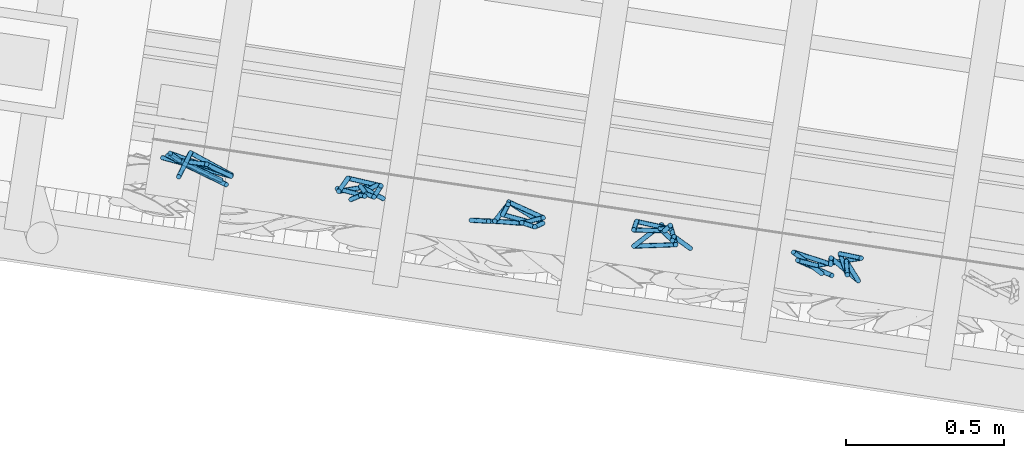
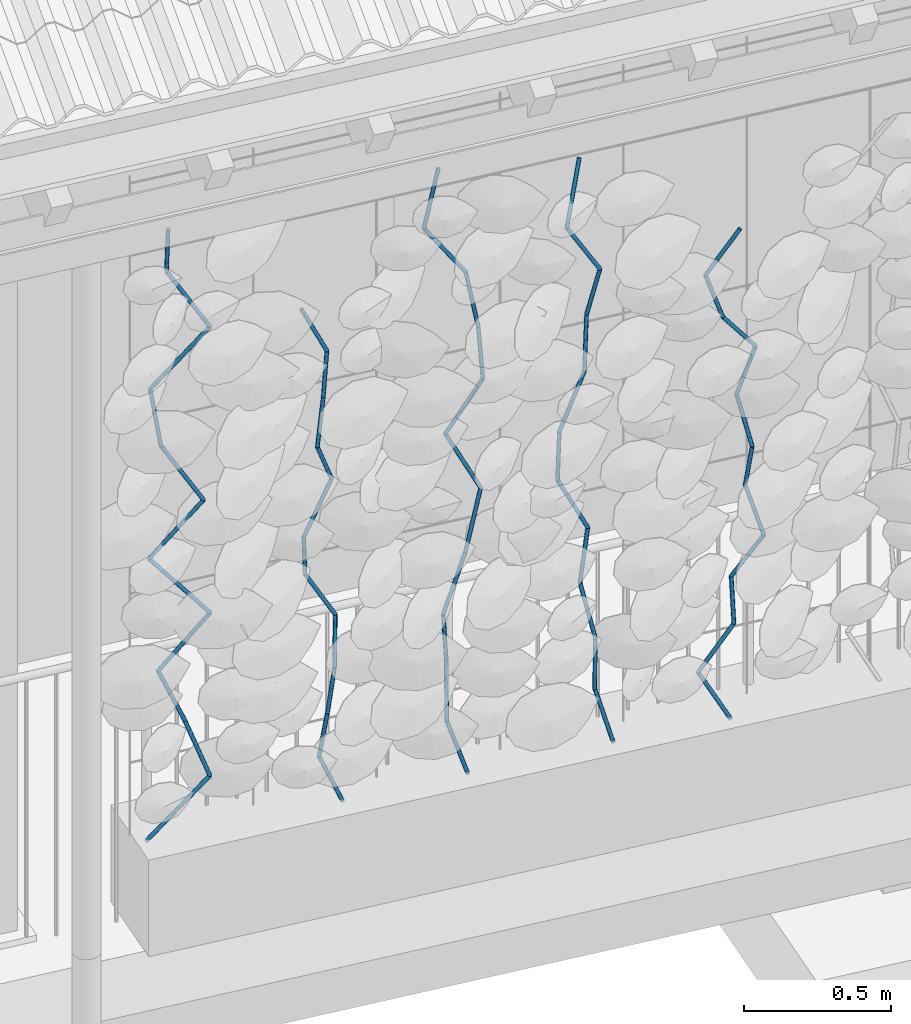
# One storey, part 106 of 131: 55 members, 1 element without a shape of its own.
"""IFC4 building model written with IfcOpenShell, lengths in metres."""

from ifc_helpers import new_model, si_unit, direction, frame, origin_with_axes, place, context, subcontext, project, spatial, circle, extrude, material, material_profile, profile_set, profile_usage, type_object, element, aggregate, save


model = new_model("IFC4")

# Units and contexts
model_context = context("Model", 3, precision=1e-05, world=origin_with_axes(), true_north=direction((0.0, 1.0)))
body_context = subcontext(model_context, "Body", "Model", "MODEL_VIEW")
ifc_project = project(units=[si_unit("AREAUNIT", "SQUARE_METRE"), si_unit("VOLUMEUNIT", "CUBIC_METRE"), si_unit("LENGTHUNIT", "METRE")], contexts=[model_context])

# Site, building, storey
site_placement = place(None, origin_with_axes())
site = spatial("IfcSite", under=ifc_project, at=site_placement, Name="Lares · Rua das Mercês · artigo 4771")
building_placement = place(site_placement, frame((15.0, 9.7, 14.65), z_axis=(0.0, 0.0, 1.0), x_axis=(0.989015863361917, -0.147809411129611, 0.0)))
building = spatial("IfcBuilding", under=site, at=building_placement, Name="Casa Sobreposta")
storey_placement = place(building_placement, origin_with_axes())
storey = spatial("IfcBuildingStorey", under=building, at=storey_placement, Name="00 · Habitação e estacionamento", Elevation=14.65)

# Assembly, members
assembly_placement = place(storey_placement, origin_with_axes())
assembly = element("IfcElementAssembly", 1, at=assembly_placement, inside=storey, Name="Fachada sul e pátio · estrutura e trepadeiras", ObjectType="LIVING_SHADE_TRELLIS", PredefinedType="USERDEFINED")
ifc_material = material(Name="Ramos de trepadeiras", Category="wood")
ifc_material_profile = material_profile(ifc_material, circle(Radius=0.0075))
ifc_profile_set = profile_set([ifc_material_profile], Name="D0.015")
ifc_profile_usage_1 = profile_usage(ifc_profile_set)
member_type = type_object("IfcMemberType", Name="D0.015 / vine_wood", PredefinedType="NOTDEFINED", material=ifc_profile_set)
member_1_placement = place(assembly_placement, frame((0.487502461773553, -1.66396382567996, 0.35), z_axis=(0.69058492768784, -0.0801863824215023, 0.718792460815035), x_axis=(-0.115338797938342, -0.993326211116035, 0.0)))
member_1 = element("IfcMember", 2, at=member_1_placement, type_object=member_type, material=ifc_profile_usage_1, Name="Trepadeiras · ramo", context=body_context, shape_type="SweptSolid", body=[
    extrude(circle(Radius=0.0075), origin_with_axes(), (0.0, 0.0, 1.0), 0.32293185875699),
])
ifc_profile_usage_2 = profile_usage(ifc_profile_set)
member_2_placement = place(assembly_placement, frame((0.710514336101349, -1.68985856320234, 0.582120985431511), z_axis=(-0.328747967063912, 0.104310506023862, 0.938639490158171), x_axis=(0.30243708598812, 0.953169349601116, 0.0)))
member_2 = element("IfcMember", 3, at=member_2_placement, type_object=member_type, material=ifc_profile_usage_2, Name="Trepadeiras · ramo", context=body_context, shape_type="SweptSolid", body=[
    extrude(circle(Radius=0.0075), origin_with_axes(), (0.0, 0.0, 1.0), 0.247295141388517),
])
ifc_profile_usage_3 = profile_usage(ifc_profile_set)
member_3_placement = place(assembly_placement, frame((0.629216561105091, -1.66406308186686, 0.814241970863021), z_axis=(-0.389191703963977, -0.00603293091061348, 0.921137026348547), x_axis=(-0.0154993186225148, 0.999879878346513, 0.0)))
member_3 = element("IfcMember", 4, at=member_3_placement, type_object=member_type, material=ifc_profile_usage_3, Name="Trepadeiras · ramo", context=body_context, shape_type="SweptSolid", body=[
    extrude(circle(Radius=0.0075), origin_with_axes(), (0.0, 0.0, 1.0), 0.251993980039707),
])
ifc_profile_usage_4 = profile_usage(ifc_profile_set)
member_4_placement = place(assembly_placement, frame((0.531142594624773, -1.66558334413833, 1.04636295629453), z_axis=(0.579293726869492, -0.182032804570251, 0.794533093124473), x_axis=(-0.299780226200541, -0.954008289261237, 0.0)))
member_4 = element("IfcMember", 5, at=member_4_placement, type_object=member_type, material=ifc_profile_usage_4, Name="Trepadeiras · ramo", context=body_context, shape_type="SweptSolid", body=[
    extrude(circle(Radius=0.0075), origin_with_axes(), (0.0, 0.0, 1.0), 0.292147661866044),
])
ifc_profile_usage_5 = profile_usage(ifc_profile_set)
member_5_placement = place(assembly_placement, frame((0.700381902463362, -1.71876380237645, 1.27848394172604), z_axis=(-0.634729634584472, 0.207136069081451, 0.744454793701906), x_axis=(0.310235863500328, 0.950659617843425, 3.09474478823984e-17)))
member_5 = element("IfcMember", 6, at=member_5_placement, type_object=member_type, material=ifc_profile_usage_5, Name="Trepadeiras · ramo", context=body_context, shape_type="SweptSolid", body=[
    extrude(circle(Radius=0.0075), origin_with_axes(), (0.0, 0.0, 1.0), 0.311799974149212),
])
ifc_profile_usage_6 = profile_usage(ifc_profile_set)
member_6_placement = place(assembly_placement, frame((0.502473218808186, -1.65417878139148, 1.51060492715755), z_axis=(0.599844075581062, -0.17685079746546, 0.78032741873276), x_axis=(-0.28279332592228, -0.959180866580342, 0.0)))
member_6 = element("IfcMember", 7, at=member_6_placement, type_object=member_type, material=ifc_profile_usage_6, Name="Trepadeiras · ramo", context=body_context, shape_type="SweptSolid", body=[
    extrude(circle(Radius=0.0075), origin_with_axes(), (0.0, 0.0, 1.0), 0.297466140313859),
])
ifc_profile_usage_7 = profile_usage(ifc_profile_set)
member_7_placement = place(assembly_placement, frame((0.680906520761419, -1.70678590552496, 1.74272591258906), z_axis=(-0.507589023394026, 0.156348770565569, 0.847294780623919), x_axis=(0.294373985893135, 0.95569030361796, 0.0)))
member_7 = element("IfcMember", 8, at=member_7_placement, type_object=member_type, material=ifc_profile_usage_7, Name="Trepadeiras · ramo", context=body_context, shape_type="SweptSolid", body=[
    extrude(circle(Radius=0.0075), origin_with_axes(), (0.0, 0.0, 1.0), 0.27395540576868),
])
ifc_profile_usage_8 = profile_usage(ifc_profile_set)
member_8_placement = place(assembly_placement, frame((0.54184976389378, -1.66395331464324, 1.97484689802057), z_axis=(-0.136484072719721, 0.0718011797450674, 0.988036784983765), x_axis=(0.465581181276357, 0.885005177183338, 0.0)))
member_8 = element("IfcMember", 9, at=member_8_placement, type_object=member_type, material=ifc_profile_usage_8, Name="Trepadeiras · ramo", context=body_context, shape_type="SweptSolid", body=[
    extrude(circle(Radius=0.0075), origin_with_axes(), (0.0, 0.0, 1.0), 0.23493152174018),
])
ifc_profile_usage_9 = profile_usage(ifc_profile_set)
member_9_placement = place(assembly_placement, frame((0.509785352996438, -1.64708495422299, 2.20696788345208), z_axis=(0.65162920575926, -0.125884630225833, 0.74801900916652), x_axis=(-0.189677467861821, -0.981846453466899, 0.0)))
member_9 = element("IfcMember", 10, at=member_9_placement, type_object=member_type, material=ifc_profile_usage_9, Name="Trepadeiras · ramo", context=body_context, shape_type="SweptSolid", body=[
    extrude(circle(Radius=0.0075), origin_with_axes(), (0.0, 0.0, 1.0), 0.310314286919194),
])
ifc_profile_usage_10 = profile_usage(ifc_profile_set)
member_10_placement = place(assembly_placement, frame((0.711995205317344, -1.6861487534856, 2.4390888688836), z_axis=(-0.503862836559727, 0.183056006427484, 0.844163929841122), x_axis=(0.341468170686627, 0.93989333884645, 0.0)))
member_10 = element("IfcMember", 11, at=member_10_placement, type_object=member_type, material=ifc_profile_usage_10, Name="Trepadeiras · ramo", context=body_context, shape_type="SweptSolid", body=[
    extrude(circle(Radius=0.0075), origin_with_axes(), (0.0, 0.0, 1.0), 0.274971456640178),
])
ifc_profile_usage_11 = profile_usage(ifc_profile_set)
member_11_placement = place(assembly_placement, frame((0.573447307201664, -1.6358135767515, 2.67120985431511), z_axis=(-0.104470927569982, -0.32645838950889, 0.939420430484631), x_axis=(-0.952420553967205, 0.304786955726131, 0.0)))
member_11 = element("IfcMember", 12, at=member_11_placement, type_object=member_type, material=ifc_profile_usage_11, Name="Trepadeiras · ramo", context=body_context, shape_type="SweptSolid", body=[
    extrude(circle(Radius=0.0075), origin_with_axes(), (0.0, 0.0, 1.0), 0.247089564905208),
])
ifc_profile_usage_12 = profile_usage(ifc_profile_set)
member_12_placement = place(assembly_placement, frame((1.19577776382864, -1.68878370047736, 0.35), z_axis=(-0.370010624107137, 0.134204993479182, 0.919282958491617), x_axis=(0.340970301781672, 0.940074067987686, 0.0)))
member_12 = element("IfcMember", 13, at=member_12_placement, type_object=member_type, material=ifc_profile_usage_12, Name="Trepadeiras · ramo", context=body_context, shape_type="SweptSolid", body=[
    extrude(circle(Radius=0.0075), origin_with_axes(), (0.0, 0.0, 1.0), 0.204791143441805),
])
ifc_profile_usage_13 = profile_usage(ifc_profile_set)
member_13_placement = place(assembly_placement, frame((1.12000286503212, -1.66129970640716, 0.538261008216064), z_axis=(0.114974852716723, -0.113400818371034, 0.98687437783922), x_axis=(-0.702216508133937, -0.71196346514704, 0.0)))
member_13 = element("IfcMember", 14, at=member_13_placement, type_object=member_type, material=ifc_profile_usage_13, Name="Trepadeiras · ramo", context=body_context, shape_type="SweptSolid", body=[
    extrude(circle(Radius=0.0075), origin_with_axes(), (0.0, 0.0, 1.0), 0.190764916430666),
])
ifc_profile_usage_14 = profile_usage(ifc_profile_set)
member_14_placement = place(assembly_placement, frame((1.14193603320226, -1.68293260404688, 0.726522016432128), z_axis=(0.129485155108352, -0.0261637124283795, 0.991236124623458), x_axis=(-0.198056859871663, -0.98019053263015, 0.0)))
member_14 = element("IfcMember", 15, at=member_14_placement, type_object=member_type, material=ifc_profile_usage_14, Name="Trepadeiras · ramo", context=body_context, shape_type="SweptSolid", body=[
    extrude(circle(Radius=0.0075), origin_with_axes(), (0.0, 0.0, 1.0), 0.189925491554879),
])
ifc_profile_usage_15 = profile_usage(ifc_profile_set)
member_15_placement = place(assembly_placement, frame((1.16652856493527, -1.68790175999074, 0.914783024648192), z_axis=(0.0860637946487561, 0.196311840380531, 0.976757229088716), x_axis=(0.915853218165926, -0.401513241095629, 0.0)))
member_15 = element("IfcMember", 16, at=member_15_placement, type_object=member_type, material=ifc_profile_usage_15, Name="Trepadeiras · ramo", context=body_context, shape_type="SweptSolid", body=[
    extrude(circle(Radius=0.0075), origin_with_axes(), (0.0, 0.0, 1.0), 0.192740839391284),
])
ifc_profile_usage_16 = profile_usage(ifc_profile_set)
member_16_placement = place(assembly_placement, frame((1.18311657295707, -1.65006445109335, 1.10304403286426), z_axis=(-0.492196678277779, 0.0389354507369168, 0.86961282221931), x_axis=(0.07885911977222, 0.996885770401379, 0.0)))
member_16 = element("IfcMember", 17, at=member_16_placement, type_object=member_type, material=ifc_profile_usage_16, Name="Trepadeiras · ramo", context=body_context, shape_type="SweptSolid", body=[
    extrude(circle(Radius=0.0075), origin_with_axes(), (0.0, 0.0, 1.0), 0.216488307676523),
])
ifc_profile_usage_17 = profile_usage(ifc_profile_set)
member_17_placement = place(assembly_placement, frame((1.07656174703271, -1.64163538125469, 1.29130504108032), z_axis=(-0.115924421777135, -0.23083538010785, 0.966062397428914), x_axis=(-0.893641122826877, 0.448782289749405, 0.0)))
member_17 = element("IfcMember", 18, at=member_17_placement, type_object=member_type, material=ifc_profile_usage_17, Name="Trepadeiras · ramo", context=body_context, shape_type="SweptSolid", body=[
    extrude(circle(Radius=0.0075), origin_with_axes(), (0.0, 0.0, 1.0), 0.194874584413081),
])
ifc_profile_usage_18 = profile_usage(ifc_profile_set)
member_18_placement = place(assembly_placement, frame((1.05397102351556, -1.68661933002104, 1.47956604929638), z_axis=(0.518346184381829, 0.165755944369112, 0.838953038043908), x_axis=(0.304584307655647, -0.952485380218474, 0.0)))
member_18 = element("IfcMember", 19, at=member_18_placement, type_object=member_type, material=ifc_profile_usage_18, Name="Trepadeiras · ramo", context=body_context, shape_type="SweptSolid", body=[
    extrude(circle(Radius=0.0075), origin_with_axes(), (0.0, 0.0, 1.0), 0.224399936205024),
])
ifc_profile_usage_19 = profile_usage(ifc_profile_set)
member_19_placement = place(assembly_placement, frame((1.17028787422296, -1.64942370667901, 1.66782705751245), z_axis=(-0.353351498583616, -0.271395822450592, 0.895258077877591), x_axis=(-0.609128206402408, 0.793071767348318, 0.0)))
member_19 = element("IfcMember", 20, at=member_19_placement, type_object=member_type, material=ifc_profile_usage_19, Name="Trepadeiras · ramo", context=body_context, shape_type="SweptSolid", body=[
    extrude(circle(Radius=0.0075), origin_with_axes(), (0.0, 0.0, 1.0), 0.210286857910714),
])
ifc_profile_usage_20 = profile_usage(ifc_profile_set)
member_20_placement = place(assembly_placement, frame((1.09598269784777, -1.70649468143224, 1.85608806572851), z_axis=(0.148789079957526, 0.088983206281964, 0.984857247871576), x_axis=(0.513264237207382, -0.858230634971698, 0.0)))
member_20 = element("IfcMember", 21, at=member_20_placement, type_object=member_type, material=ifc_profile_usage_20, Name="Trepadeiras · ramo", context=body_context, shape_type="SweptSolid", body=[
    extrude(circle(Radius=0.0075), origin_with_axes(), (0.0, 0.0, 1.0), 0.191155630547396),
])
ifc_profile_usage_21 = profile_usage(ifc_profile_set)
member_21_placement = place(assembly_placement, frame((1.12442456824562, -1.68948504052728, 2.04434907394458), z_axis=(0.0685665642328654, -0.00028264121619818, 0.99764650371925), x_axis=(-0.00412210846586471, -0.999991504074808, 0.0)))
member_21 = element("IfcMember", 22, at=member_21_placement, type_object=member_type, material=ifc_profile_usage_21, Name="Trepadeiras · ramo", context=body_context, shape_type="SweptSolid", body=[
    extrude(circle(Radius=0.0075), origin_with_axes(), (0.0, 0.0, 1.0), 0.188705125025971),
])
ifc_profile_usage_22 = profile_usage(ifc_profile_set)
member_22_placement = place(assembly_placement, frame((1.13736343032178, -1.68953837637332, 2.23261008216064), z_axis=(-0.427784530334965, 0.0507941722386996, 0.902452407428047), x_axis=(0.117909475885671, 0.993024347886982, 0.0)))
member_22 = element("IfcMember", 23, at=member_22_placement, type_object=member_type, material=ifc_profile_usage_22, Name="Trepadeiras · ramo", context=body_context, shape_type="SweptSolid", body=[
    extrude(circle(Radius=0.0075), origin_with_axes(), (0.0, 0.0, 1.0), 0.208610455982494),
])
ifc_profile_usage_23 = profile_usage(ifc_profile_set)
member_23_placement = place(assembly_placement, frame((1.65069620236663, -1.69213332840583, 0.35), z_axis=(-0.302355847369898, 0.0374710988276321, 0.952458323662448), x_axis=(0.122989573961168, 0.992407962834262, 0.0)))
member_23 = element("IfcMember", 24, at=member_23_placement, type_object=member_type, material=ifc_profile_usage_23, Name="Trepadeiras · ramo", context=body_context, shape_type="SweptSolid", body=[
    extrude(circle(Radius=0.0075), origin_with_axes(), (0.0, 0.0, 1.0), 0.243378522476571),
])
ifc_profile_usage_24 = profile_usage(ifc_profile_set)
member_24_placement = place(assembly_placement, frame((1.57710928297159, -1.68301366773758, 0.581807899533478), z_axis=(0.0489488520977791, 0.146411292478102, 0.988012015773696), x_axis=(0.948400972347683, -0.317073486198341, 0.0)))
member_24 = element("IfcMember", 25, at=member_24_placement, type_object=member_type, material=ifc_profile_usage_24, Name="Trepadeiras · ramo", context=body_context, shape_type="SweptSolid", body=[
    extrude(circle(Radius=0.0075), origin_with_axes(), (0.0, 0.0, 1.0), 0.234620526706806),
])
ifc_profile_usage_25 = profile_usage(ifc_profile_set)
member_25_placement = place(assembly_placement, frame((1.58859368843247, -1.64866257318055, 0.813615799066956), z_axis=(-0.139443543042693, -0.242815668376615, 0.959997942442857), x_axis=(-0.867176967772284, 0.498000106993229, 0.0)))
member_25 = element("IfcMember", 26, at=member_25_placement, type_object=member_type, material=ifc_profile_usage_25, Name="Trepadeiras · ramo", context=body_context, shape_type="SweptSolid", body=[
    extrude(circle(Radius=0.0075), origin_with_axes(), (0.0, 0.0, 1.0), 0.2414670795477),
])
ifc_profile_usage_26 = profile_usage(ifc_profile_set)
member_26_placement = place(assembly_placement, frame((1.55492266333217, -1.70729456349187, 1.04542369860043), z_axis=(0.336633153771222, 0.0229710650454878, 0.941355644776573), x_axis=(0.0680793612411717, -0.997679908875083, 0.0)))
member_26 = element("IfcMember", 27, at=member_26_placement, type_object=member_type, material=ifc_profile_usage_26, Name="Trepadeiras · ramo", context=body_context, shape_type="SweptSolid", body=[
    extrude(circle(Radius=0.0075), origin_with_axes(), (0.0, 0.0, 1.0), 0.24624901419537),
])
ifc_profile_usage_27 = profile_usage(ifc_profile_set)
member_27_placement = place(assembly_placement, frame((1.63781824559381, -1.7016379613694, 1.27723159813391), z_axis=(0.274649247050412, 0.113486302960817, 0.954823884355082), x_axis=(0.381887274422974, -0.924208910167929, -1.11474430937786e-17)))
member_27 = element("IfcMember", 28, at=member_27_placement, type_object=member_type, material=ifc_profile_usage_27, Name="Trepadeiras · ramo", context=body_context, shape_type="SweptSolid", body=[
    extrude(circle(Radius=0.0075), origin_with_axes(), (0.0, 0.0, 1.0), 0.242775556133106),
])
ifc_profile_usage_28 = profile_usage(ifc_profile_set)
member_28_placement = place(assembly_placement, frame((1.70449636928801, -1.6740862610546, 1.50903949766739), z_axis=(-0.442828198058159, 0.127544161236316, 0.887488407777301), x_axis=(0.27677050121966, 0.960936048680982, -1.33632518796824e-17)))
member_28 = element("IfcMember", 29, at=member_28_placement, type_object=member_type, material=ifc_profile_usage_28, Name="Trepadeiras · ramo", context=body_context, shape_type="SweptSolid", body=[
    extrude(circle(Radius=0.0075), origin_with_axes(), (0.0, 0.0, 1.0), 0.261195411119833),
])
ifc_profile_usage_29 = profile_usage(ifc_profile_set)
member_29_placement = place(assembly_placement, frame((1.58883167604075, -1.64077231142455, 1.74084739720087), z_axis=(0.441156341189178, -0.192631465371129, 0.876512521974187), x_axis=(-0.400165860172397, -0.916442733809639, 0.0)))
member_29 = element("IfcMember", 30, at=member_29_placement, type_object=member_type, material=ifc_profile_usage_29, Name="Trepadeiras · ramo", context=body_context, shape_type="SweptSolid", body=[
    extrude(circle(Radius=0.0075), origin_with_axes(), (0.0, 0.0, 1.0), 0.264466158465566),
])
ifc_profile_usage_30 = profile_usage(ifc_profile_set)
member_30_placement = place(assembly_placement, frame((1.70550259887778, -1.69171681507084, 1.97265529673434), z_axis=(-0.0976262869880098, -0.062175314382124, 0.993279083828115), x_axis=(-0.537179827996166, 0.843467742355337, 0.0)))
member_30 = element("IfcMember", 31, at=member_30_placement, type_object=member_type, material=ifc_profile_usage_30, Name="Trepadeiras · ramo", context=body_context, shape_type="SweptSolid", body=[
    extrude(circle(Radius=0.0075), origin_with_axes(), (0.0, 0.0, 1.0), 0.233376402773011),
])
ifc_profile_usage_31 = profile_usage(ifc_profile_set)
member_31_placement = place(assembly_placement, frame((1.68271892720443, -1.70622706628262, 2.20446319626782), z_axis=(-0.182010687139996, 0.0299207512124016, 0.982841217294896), x_axis=(0.162212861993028, 0.986755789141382, 0.0)))
member_31 = element("IfcMember", 32, at=member_31_placement, type_object=member_type, material=ifc_profile_usage_31, Name="Trepadeiras · ramo", context=body_context, shape_type="SweptSolid", body=[
    extrude(circle(Radius=0.0075), origin_with_axes(), (0.0, 0.0, 1.0), 0.235854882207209),
])
ifc_profile_usage_32 = profile_usage(ifc_profile_set)
member_32_placement = place(assembly_placement, frame((1.63979081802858, -1.69917011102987, 2.4362710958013), z_axis=(-0.563762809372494, -0.0571675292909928, 0.823955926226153), x_axis=(-0.100886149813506, 0.994897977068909, -1.00896558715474e-17)))
member_32 = element("IfcMember", 33, at=member_32_placement, type_object=member_type, material=ifc_profile_usage_32, Name="Trepadeiras · ramo", context=body_context, shape_type="SweptSolid", body=[
    extrude(circle(Radius=0.0075), origin_with_axes(), (0.0, 0.0, 1.0), 0.281335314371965),
])
ifc_profile_usage_33 = profile_usage(ifc_profile_set)
member_33_placement = place(assembly_placement, frame((1.48118443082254, -1.71525335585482, 2.66807899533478), z_axis=(0.22862328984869, 0.0196119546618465, 0.973317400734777), x_axis=(0.0854689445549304, -0.996340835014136, 0.0)))
member_33 = element("IfcMember", 34, at=member_33_placement, type_object=member_type, material=ifc_profile_usage_33, Name="Trepadeiras · ramo", context=body_context, shape_type="SweptSolid", body=[
    extrude(circle(Radius=0.0075), origin_with_axes(), (0.0, 0.0, 1.0), 0.238162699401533),
])
ifc_profile_usage_34 = profile_usage(ifc_profile_set)
member_34_placement = place(assembly_placement, frame((2.17778990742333, -1.70092541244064, 0.35), z_axis=(-0.246947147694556, 0.127641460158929, 0.960585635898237), x_axis=(0.459167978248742, 0.888349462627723, 0.0)))
member_34 = element("IfcMember", 35, at=member_34_placement, type_object=member_type, material=ifc_profile_usage_34, Name="Trepadeiras · ramo", context=body_context, shape_type="SweptSolid", body=[
    extrude(circle(Radius=0.0075), origin_with_axes(), (0.0, 0.0, 1.0), 0.22794704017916),
])
ifc_profile_usage_35 = profile_usage(ifc_profile_set)
member_35_placement = place(assembly_placement, frame((2.12149903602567, -1.67182991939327, 0.568962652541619), z_axis=(-0.0140771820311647, -0.0591782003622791, 0.998148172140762), x_axis=(-0.972853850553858, 0.231420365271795, 0.0)))
member_35 = element("IfcMember", 36, at=member_35_placement, type_object=member_type, material=ifc_profile_usage_35, Name="Trepadeiras · ramo", context=body_context, shape_type="SweptSolid", body=[
    extrude(circle(Radius=0.0075), origin_with_axes(), (0.0, 0.0, 1.0), 0.219368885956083),
])
ifc_profile_usage_36 = profile_usage(ifc_profile_set)
member_36_placement = place(assembly_placement, frame((2.11841094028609, -1.68481177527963, 0.787925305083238), z_axis=(-0.193001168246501, 0.140922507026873, 0.971025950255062), x_axis=(0.589697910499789, 0.807623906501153, 0.0)))
member_36 = element("IfcMember", 37, at=member_36_placement, type_object=member_type, material=ifc_profile_usage_36, Name="Trepadeiras · ramo", context=body_context, shape_type="SweptSolid", body=[
    extrude(circle(Radius=0.0075), origin_with_axes(), (0.0, 0.0, 1.0), 0.225496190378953),
])
ifc_profile_usage_37 = profile_usage(ifc_profile_set)
member_37_placement = place(assembly_placement, frame((2.07488991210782, -1.65303428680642, 1.00688795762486), z_axis=(0.136031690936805, 0.0168165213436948, 0.990561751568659), x_axis=(0.122688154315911, -0.99244527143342, 0.0)))
member_37 = element("IfcMember", 38, at=member_37_placement, type_object=member_type, material=ifc_profile_usage_37, Name="Trepadeiras · ramo", context=body_context, shape_type="SweptSolid", body=[
    extrude(circle(Radius=0.0075), origin_with_axes(), (0.0, 0.0, 1.0), 0.221048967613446),
])
ifc_profile_usage_38 = profile_usage(ifc_profile_set)
member_38_placement = place(assembly_placement, frame((2.10495957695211, -1.64931701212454, 1.22585061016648), z_axis=(-0.43984831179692, 0.0300602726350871, 0.897568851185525), x_axis=(0.0681833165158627, 0.997672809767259, 0.0)))
member_38 = element("IfcMember", 39, at=member_38_placement, type_object=member_type, material=ifc_profile_usage_38, Name="Trepadeiras · ramo", context=body_context, shape_type="SweptSolid", body=[
    extrude(circle(Radius=0.0075), origin_with_axes(), (0.0, 0.0, 1.0), 0.243950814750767),
])
ifc_profile_usage_39 = profile_usage(ifc_profile_set)
member_39_placement = place(assembly_placement, frame((1.9976582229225, -1.64198378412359, 1.4448132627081), z_axis=(-0.0213600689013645, -0.125262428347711, 0.991893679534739), x_axis=(-0.985770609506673, 0.168096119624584, 0.0)))
member_39 = element("IfcMember", 40, at=member_39_placement, type_object=member_type, material=ifc_profile_usage_39, Name="Trepadeiras · ramo", context=body_context, shape_type="SweptSolid", body=[
    extrude(circle(Radius=0.0075), origin_with_axes(), (0.0, 0.0, 1.0), 0.220752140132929),
])
ifc_profile_usage_40 = profile_usage(ifc_profile_set)
member_40_placement = place(assembly_placement, frame((1.99294294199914, -1.66963573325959, 1.66377591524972), z_axis=(0.401780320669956, 0.0493789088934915, 0.914403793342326), x_axis=(0.121982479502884, -0.992532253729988, 0.0)))
member_40 = element("IfcMember", 41, at=member_40_placement, type_object=member_type, material=ifc_profile_usage_40, Name="Trepadeiras · ramo", context=body_context, shape_type="SweptSolid", body=[
    extrude(circle(Radius=0.0075), origin_with_axes(), (0.0, 0.0, 1.0), 0.239459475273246),
])
ifc_profile_usage_41 = profile_usage(ifc_profile_set)
member_41_placement = place(assembly_placement, frame((2.08915304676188, -1.65781148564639, 1.88273856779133), z_axis=(0.0701700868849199, 0.0863193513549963, 0.993793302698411), x_axis=(0.77595729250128, -0.630785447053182, 0.0)))
member_41 = element("IfcMember", 42, at=member_41_placement, type_object=member_type, material=ifc_profile_usage_41, Name="Trepadeiras · ramo", context=body_context, shape_type="SweptSolid", body=[
    extrude(circle(Radius=0.0075), origin_with_axes(), (0.0, 0.0, 1.0), 0.220330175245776),
])
ifc_profile_usage_42 = profile_usage(ifc_profile_set)
member_42_placement = place(assembly_placement, frame((2.10461363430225, -1.63879272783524, 2.10170122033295), z_axis=(0.114782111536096, -0.252020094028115, 0.960890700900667), x_axis=(-0.910056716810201, -0.414483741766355, 0.0)))
member_42 = element("IfcMember", 43, at=member_42_placement, type_object=member_type, material=ifc_profile_usage_42, Name="Trepadeiras · ramo", context=body_context, shape_type="SweptSolid", body=[
    extrude(circle(Radius=0.0075), origin_with_axes(), (0.0, 0.0, 1.0), 0.227874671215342),
])
ifc_profile_usage_43 = profile_usage(ifc_profile_set)
member_43_placement = place(assembly_placement, frame((2.13076957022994, -1.69622172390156, 2.32066387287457), z_axis=(-0.509242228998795, -0.0945821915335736, 0.855410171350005), x_axis=(-0.182608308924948, 0.98318574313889, -1.14597678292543e-17)))
member_43 = element("IfcMember", 44, at=member_43_placement, type_object=member_type, material=ifc_profile_usage_43, Name="Trepadeiras · ramo", context=body_context, shape_type="SweptSolid", body=[
    extrude(circle(Radius=0.0075), origin_with_axes(), (0.0, 0.0, 1.0), 0.255973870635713),
])
ifc_profile_usage_44 = profile_usage(ifc_profile_set)
member_44_placement = place(assembly_placement, frame((2.00041686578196, -1.72043229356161, 2.53962652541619), z_axis=(0.313740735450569, 0.3266213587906, 0.89156336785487), x_axis=(0.721184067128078, -0.692743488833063, 0.0)))
member_44 = element("IfcMember", 45, at=member_44_placement, type_object=member_type, material=ifc_profile_usage_44, Name="Trepadeiras · ramo", context=body_context, shape_type="SweptSolid", body=[
    extrude(circle(Radius=0.0075), origin_with_axes(), (0.0, 0.0, 1.0), 0.245594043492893),
])
ifc_profile_usage_45 = profile_usage(ifc_profile_set)
member_45_placement = place(assembly_placement, frame((2.59969783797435, -1.71802459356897, 0.35), z_axis=(-0.456897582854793, 0.248231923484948, 0.854181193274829), x_axis=(0.477391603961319, 0.878690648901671, 0.0)))
member_45 = element("IfcMember", 46, at=member_45_placement, type_object=member_type, material=ifc_profile_usage_45, Name="Trepadeiras · ramo", context=body_context, shape_type="SweptSolid", body=[
    extrude(circle(Radius=0.0075), origin_with_axes(), (0.0, 0.0, 1.0), 0.21542535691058),
])
ifc_profile_usage_46 = profile_usage(ifc_profile_set)
member_46_placement = place(assembly_placement, frame((2.50127051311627, -1.66454914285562, 0.534012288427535), z_axis=(0.55135418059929, -0.0926420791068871, 0.829111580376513), x_axis=(-0.165703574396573, -0.986175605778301, 1.02902709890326e-17)))
member_46 = element("IfcMember", 47, at=member_46_placement, type_object=member_type, material=ifc_profile_usage_46, Name="Trepadeiras · ramo", context=body_context, shape_type="SweptSolid", body=[
    extrude(circle(Radius=0.0075), origin_with_axes(), (0.0, 0.0, 1.0), 0.221939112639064),
])
ifc_profile_usage_47 = profile_usage(ifc_profile_set)
member_47_placement = place(assembly_placement, frame((2.62363757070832, -1.68511004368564, 0.71802457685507), z_axis=(-0.00935614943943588, 0.106766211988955, 0.994240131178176), x_axis=(0.996182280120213, 0.0872975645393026, 0.0)))
member_47 = element("IfcMember", 48, at=member_47_placement, type_object=member_type, material=ifc_profile_usage_47, Name="Trepadeiras · ramo", context=body_context, shape_type="SweptSolid", body=[
    extrude(circle(Radius=0.0075), origin_with_axes(), (0.0, 0.0, 1.0), 0.185078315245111),
])
ifc_profile_usage_48 = profile_usage(ifc_profile_set)
member_48_placement = place(assembly_placement, frame((2.62190595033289, -1.66534993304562, 0.902036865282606), z_axis=(0.443819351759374, -0.271276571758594, 0.854068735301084), x_axis=(-0.521525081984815, -0.853235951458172, -2.27864137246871e-17)))
member_48 = element("IfcMember", 49, at=member_48_placement, type_object=member_type, material=ifc_profile_usage_48, Name="Trepadeiras · ramo", context=body_context, shape_type="SweptSolid", body=[
    extrude(circle(Radius=0.0075), origin_with_axes(), (0.0, 0.0, 1.0), 0.215453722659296),
])
ifc_profile_usage_49 = profile_usage(ifc_profile_set)
member_49_placement = place(assembly_placement, frame((2.71752848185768, -1.72379748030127, 1.08604915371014), z_axis=(-0.234019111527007, 0.276985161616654, 0.931941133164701), x_axis=(0.763866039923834, 0.645374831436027, 0.0)))
member_49 = element("IfcMember", 50, at=member_49_placement, type_object=member_type, material=ifc_profile_usage_49, Name="Trepadeiras · ramo", context=body_context, shape_type="SweptSolid", body=[
    extrude(circle(Radius=0.0075), origin_with_axes(), (0.0, 0.0, 1.0), 0.197450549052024),
])
ifc_profile_usage_50 = profile_usage(ifc_profile_set)
member_50_placement = place(assembly_placement, frame((2.671321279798, -1.66910660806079, 1.27006144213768), z_axis=(0.0486760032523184, -0.218400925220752, 0.974644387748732), x_axis=(-0.976052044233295, -0.217537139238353, 0.0)))
member_50 = element("IfcMember", 51, at=member_50_placement, type_object=member_type, material=ifc_profile_usage_50, Name="Trepadeiras · ramo", context=body_context, shape_type="SweptSolid", body=[
    extrude(circle(Radius=0.0075), origin_with_axes(), (0.0, 0.0, 1.0), 0.18879941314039),
])
ifc_profile_usage_51 = profile_usage(ifc_profile_set)
member_51_placement = place(assembly_placement, frame((2.68051128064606, -1.71034057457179, 1.45407373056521), z_axis=(-0.1644514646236, 0.316888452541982, 0.934097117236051), x_axis=(0.887595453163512, 0.460623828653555, 0.0)))
member_51 = element("IfcMember", 52, at=member_51_placement, type_object=member_type, material=ifc_profile_usage_51, Name="Trepadeiras · ramo", context=body_context, shape_type="SweptSolid", body=[
    extrude(circle(Radius=0.0075), origin_with_axes(), (0.0, 0.0, 1.0), 0.19699481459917),
])
ifc_profile_usage_52 = profile_usage(ifc_profile_set)
member_52_placement = place(assembly_placement, frame((2.64811519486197, -1.64791519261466, 1.63808601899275), z_axis=(0.34534465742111, -0.0192792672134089, 0.938277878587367), x_axis=(-0.0557393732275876, -0.998445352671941, 0.0)))
member_52 = element("IfcMember", 53, at=member_52_placement, type_object=member_type, material=ifc_profile_usage_52, Name="Trepadeiras · ramo", context=body_context, shape_type="SweptSolid", body=[
    extrude(circle(Radius=0.0075), origin_with_axes(), (0.0, 0.0, 1.0), 0.1961170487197),
])
ifc_profile_usage_53 = profile_usage(ifc_profile_set)
member_53_placement = place(assembly_placement, frame((2.71584316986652, -1.65169618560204, 1.82209830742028), z_axis=(-0.585863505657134, -0.185742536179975, 0.788836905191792), x_axis=(-0.30221567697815, 0.953239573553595, 0.0)))
member_53 = element("IfcMember", 54, at=member_53_placement, type_object=member_type, material=ifc_profile_usage_53, Name="Trepadeiras · ramo", context=body_context, shape_type="SweptSolid", body=[
    extrude(circle(Radius=0.0075), origin_with_axes(), (0.0, 0.0, 1.0), 0.233270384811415),
])
ifc_profile_usage_54 = profile_usage(ifc_profile_set)
member_54_placement = place(assembly_placement, frame((2.57917856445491, -1.69502441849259, 2.00611059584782), z_axis=(-0.312525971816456, 0.0344683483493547, 0.949283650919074), x_axis=(0.109624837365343, 0.993973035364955, 0.0)))
member_54 = element("IfcMember", 55, at=member_54_placement, type_object=member_type, material=ifc_profile_usage_54, Name="Trepadeiras · ramo", context=body_context, shape_type="SweptSolid", body=[
    extrude(circle(Radius=0.0075), origin_with_axes(), (0.0, 0.0, 1.0), 0.193843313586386),
])
ifc_profile_usage_55 = profile_usage(ifc_profile_set)
member_55_placement = place(assembly_placement, frame((2.51859749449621, -1.6883429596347, 2.19012288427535), z_axis=(0.522156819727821, -0.142597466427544, 0.840843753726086), x_axis=(-0.263445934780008, -0.964674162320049, 0.0)))
member_55 = element("IfcMember", 56, at=member_55_placement, type_object=member_type, material=ifc_profile_usage_55, Name="Trepadeiras · ramo", context=body_context, shape_type="SweptSolid", body=[
    extrude(circle(Radius=0.0075), origin_with_axes(), (0.0, 0.0, 1.0), 0.218842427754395),
])
aggregate(assembly, [member_1, member_2, member_3, member_4, member_5, member_6, member_7, member_8, member_9, member_10, member_11, member_12, member_13, member_14, member_15, member_16, member_17, member_18, member_19, member_20, member_21, member_22, member_23, member_24, member_25, member_26, member_27, member_28, member_29, member_30, member_31, member_32, member_33, member_34, member_35, member_36, member_37, member_38, member_39, member_40, member_41, member_42, member_43, member_44, member_45, member_46, member_47, member_48, member_49, member_50, member_51, member_52, member_53, member_54, member_55])

save(model, "model.ifc")
